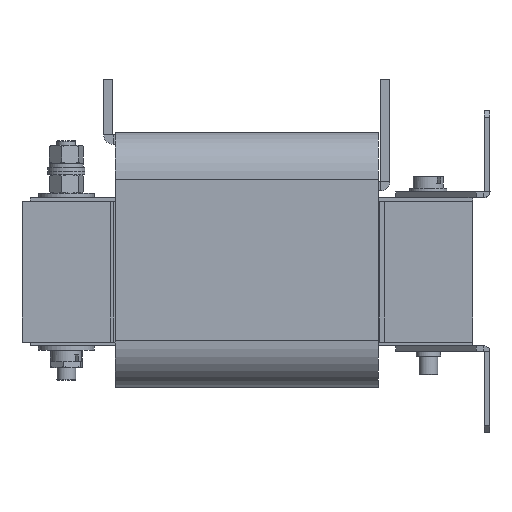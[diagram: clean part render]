
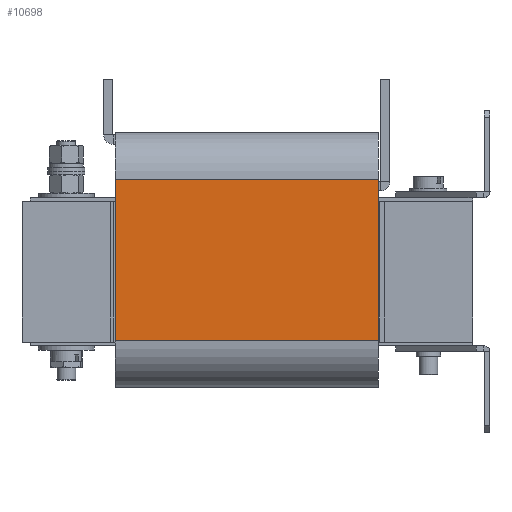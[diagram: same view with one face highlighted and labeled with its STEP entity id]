
A CAD part, left-side view. The second image highlights one B-rep face of the part: STEP entity #10698.
In plain terms, the highlighted planar face has unit normal (-1, 0, 0).
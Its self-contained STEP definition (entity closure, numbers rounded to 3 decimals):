
#158 = VERTEX_POINT ( 'NONE', #4474 ) ;
#249 = VECTOR ( 'NONE', #8324, 1000. ) ;
#392 = EDGE_CURVE ( 'NONE', #935, #13548, #17823, .T. ) ;
#720 = LINE ( 'NONE', #831, #249 ) ;
#831 = CARTESIAN_POINT ( 'NONE',  ( -37., -56.5, 59.75 ) ) ;
#935 = VERTEX_POINT ( 'NONE', #7530 ) ;
#1259 = ORIENTED_EDGE ( 'NONE', *, *, #5134, .T. ) ;
#1873 = ORIENTED_EDGE ( 'NONE', *, *, #16199, .F. ) ;
#2182 = VECTOR ( 'NONE', #5504, 1000. ) ;
#3436 = VECTOR ( 'NONE', #13829, 1000. ) ;
#3855 = ORIENTED_EDGE ( 'NONE', *, *, #11746, .T. ) ;
#4474 = CARTESIAN_POINT ( 'NONE',  ( -37., -56.5, -29.75 ) ) ;
#4884 = CARTESIAN_POINT ( 'NONE',  ( -37., 56.5, 59.75 ) ) ;
#5134 = EDGE_CURVE ( 'NONE', #158, #935, #720, .T. ) ;
#5504 = DIRECTION ( 'NONE',  ( 0., -1., 0. ) ) ;
#6182 = LINE ( 'NONE', #12991, #2182 ) ;
#7530 = CARTESIAN_POINT ( 'NONE',  ( -37., -56.5, 39.75 ) ) ;
#8225 = DIRECTION ( 'NONE',  ( 1., 0., 0. ) ) ;
#8324 = DIRECTION ( 'NONE',  ( 0., 0., 1. ) ) ;
#8394 = LINE ( 'NONE', #4884, #3436 ) ;
#8753 = EDGE_LOOP ( 'NONE', ( #1873, #3855, #1259, #16263 ) ) ;
#10698 = ADVANCED_FACE ( 'NONE', ( #17232 ), #12643, .F. ) ;
#11666 = DIRECTION ( 'NONE',  ( 0., 1., 0. ) ) ;
#11746 = EDGE_CURVE ( 'NONE', #11854, #158, #6182, .T. ) ;
#11854 = VERTEX_POINT ( 'NONE', #14823 ) ;
#12215 = AXIS2_PLACEMENT_3D ( 'NONE', #14152, #8225, #18642 ) ;
#12643 = PLANE ( 'NONE',  #12215 ) ;
#12991 = CARTESIAN_POINT ( 'NONE',  ( -37., 56.5, -29.75 ) ) ;
#13300 = CARTESIAN_POINT ( 'NONE',  ( -37., 56.5, 39.75 ) ) ;
#13386 = VECTOR ( 'NONE', #11666, 1000. ) ;
#13548 = VERTEX_POINT ( 'NONE', #13300 ) ;
#13829 = DIRECTION ( 'NONE',  ( 0., 0., 1. ) ) ;
#14152 = CARTESIAN_POINT ( 'NONE',  ( -37., 56.5, 59.75 ) ) ;
#14823 = CARTESIAN_POINT ( 'NONE',  ( -37., 56.5, -29.75 ) ) ;
#16199 = EDGE_CURVE ( 'NONE', #11854, #13548, #8394, .T. ) ;
#16263 = ORIENTED_EDGE ( 'NONE', *, *, #392, .T. ) ;
#17232 = FACE_OUTER_BOUND ( 'NONE', #8753, .T. ) ;
#17823 = LINE ( 'NONE', #19081, #13386 ) ;
#18642 = DIRECTION ( 'NONE',  ( 0., 0., -1. ) ) ;
#19081 = CARTESIAN_POINT ( 'NONE',  ( -37., 56.5, 39.75 ) ) ;
